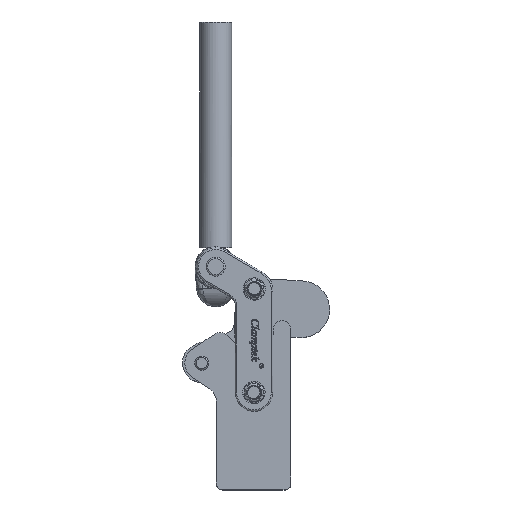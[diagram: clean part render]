
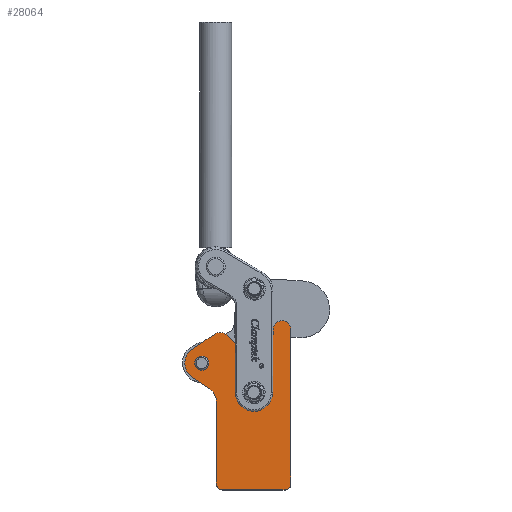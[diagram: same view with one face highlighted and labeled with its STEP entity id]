
A CAD part, top view. The second image highlights one B-rep face of the part: STEP entity #28064.
In plain terms, the highlighted planar face has unit normal (0, 0, 1).
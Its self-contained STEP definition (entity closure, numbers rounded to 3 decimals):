
#961=FACE_BOUND('',#3507,.T.);
#962=FACE_BOUND('',#3508,.T.);
#1029=PLANE('',#29809);
#1997=FACE_OUTER_BOUND('',#3506,.T.);
#3506=EDGE_LOOP('',(#19115,#19116,#19117,#19118,#19119,#19120,#19121,#19122,
#19123,#19124,#19125,#19126,#19127,#19128));
#3507=EDGE_LOOP('',(#19129,#19130));
#3508=EDGE_LOOP('',(#19131,#19132));
#5084=LINE('',#39654,#7996);
#5085=LINE('',#39658,#7997);
#5086=LINE('',#39662,#7998);
#5087=LINE('',#39666,#7999);
#5088=LINE('',#39670,#8000);
#5089=LINE('',#39673,#8001);
#5090=LINE('',#39674,#8002);
#7996=VECTOR('',#32136,1000.);
#7997=VECTOR('',#32139,1000.);
#7998=VECTOR('',#32142,1000.);
#7999=VECTOR('',#32145,1000.);
#8000=VECTOR('',#32148,1000.);
#8001=VECTOR('',#32151,1000.);
#8002=VECTOR('',#32152,1000.);
#10904=CIRCLE('',#29797,4.75);
#10907=CIRCLE('',#29800,4.75);
#10908=CIRCLE('',#29802,6.35);
#10911=CIRCLE('',#29805,6.35);
#10912=CIRCLE('',#29807,11.5);
#10914=CIRCLE('',#29810,10.);
#10915=CIRCLE('',#29811,4.);
#10916=CIRCLE('',#29812,4.);
#10917=CIRCLE('',#29813,6.);
#10918=CIRCLE('',#29814,13.5);
#10919=CIRCLE('',#29815,7.5);
#11864=VERTEX_POINT('',#39621);
#11865=VERTEX_POINT('',#39622);
#11868=VERTEX_POINT('',#39631);
#11869=VERTEX_POINT('',#39632);
#11872=VERTEX_POINT('',#39641);
#11873=VERTEX_POINT('',#39642);
#11876=VERTEX_POINT('',#39650);
#11877=VERTEX_POINT('',#39651);
#11878=VERTEX_POINT('',#39653);
#11879=VERTEX_POINT('',#39655);
#11880=VERTEX_POINT('',#39657);
#11881=VERTEX_POINT('',#39659);
#11882=VERTEX_POINT('',#39661);
#11883=VERTEX_POINT('',#39663);
#11884=VERTEX_POINT('',#39665);
#11885=VERTEX_POINT('',#39667);
#11886=VERTEX_POINT('',#39669);
#11887=VERTEX_POINT('',#39671);
#14756=EDGE_CURVE('',#11864,#11865,#10904,.T.);
#14760=EDGE_CURVE('',#11865,#11864,#10907,.T.);
#14761=EDGE_CURVE('',#11868,#11869,#10908,.T.);
#14765=EDGE_CURVE('',#11869,#11868,#10911,.T.);
#14766=EDGE_CURVE('',#11872,#11873,#10912,.T.);
#14770=EDGE_CURVE('',#11876,#11877,#10914,.T.);
#14771=EDGE_CURVE('',#11877,#11878,#5084,.T.);
#14772=EDGE_CURVE('',#11878,#11879,#10915,.T.);
#14773=EDGE_CURVE('',#11879,#11880,#5085,.T.);
#14774=EDGE_CURVE('',#11880,#11881,#10916,.T.);
#14775=EDGE_CURVE('',#11881,#11882,#5086,.T.);
#14776=EDGE_CURVE('',#11882,#11883,#10917,.T.);
#14777=EDGE_CURVE('',#11883,#11884,#5087,.T.);
#14778=EDGE_CURVE('',#11884,#11885,#10918,.T.);
#14779=EDGE_CURVE('',#11885,#11886,#5088,.T.);
#14780=EDGE_CURVE('',#11886,#11887,#10919,.T.);
#14781=EDGE_CURVE('',#11887,#11872,#5089,.T.);
#14782=EDGE_CURVE('',#11873,#11876,#5090,.T.);
#19115=ORIENTED_EDGE('',*,*,#14770,.T.);
#19116=ORIENTED_EDGE('',*,*,#14771,.T.);
#19117=ORIENTED_EDGE('',*,*,#14772,.T.);
#19118=ORIENTED_EDGE('',*,*,#14773,.T.);
#19119=ORIENTED_EDGE('',*,*,#14774,.T.);
#19120=ORIENTED_EDGE('',*,*,#14775,.T.);
#19121=ORIENTED_EDGE('',*,*,#14776,.T.);
#19122=ORIENTED_EDGE('',*,*,#14777,.T.);
#19123=ORIENTED_EDGE('',*,*,#14778,.T.);
#19124=ORIENTED_EDGE('',*,*,#14779,.T.);
#19125=ORIENTED_EDGE('',*,*,#14780,.T.);
#19126=ORIENTED_EDGE('',*,*,#14781,.T.);
#19127=ORIENTED_EDGE('',*,*,#14766,.T.);
#19128=ORIENTED_EDGE('',*,*,#14782,.T.);
#19129=ORIENTED_EDGE('',*,*,#14756,.F.);
#19130=ORIENTED_EDGE('',*,*,#14760,.F.);
#19131=ORIENTED_EDGE('',*,*,#14761,.F.);
#19132=ORIENTED_EDGE('',*,*,#14765,.F.);
#28064=ADVANCED_FACE('',(#1997,#961,#962),#1029,.T.);
#29797=AXIS2_PLACEMENT_3D('',#39623,#32104,#32105);
#29800=AXIS2_PLACEMENT_3D('',#39629,#32111,#32112);
#29802=AXIS2_PLACEMENT_3D('',#39633,#32115,#32116);
#29805=AXIS2_PLACEMENT_3D('',#39639,#32122,#32123);
#29807=AXIS2_PLACEMENT_3D('',#39643,#32126,#32127);
#29809=AXIS2_PLACEMENT_3D('',#39649,#32132,#32133);
#29810=AXIS2_PLACEMENT_3D('',#39652,#32134,#32135);
#29811=AXIS2_PLACEMENT_3D('',#39656,#32137,#32138);
#29812=AXIS2_PLACEMENT_3D('',#39660,#32140,#32141);
#29813=AXIS2_PLACEMENT_3D('',#39664,#32143,#32144);
#29814=AXIS2_PLACEMENT_3D('',#39668,#32146,#32147);
#29815=AXIS2_PLACEMENT_3D('',#39672,#32149,#32150);
#32104=DIRECTION('center_axis',(0.,0.,1.));
#32105=DIRECTION('ref_axis',(1.,0.,0.));
#32111=DIRECTION('center_axis',(0.,0.,1.));
#32112=DIRECTION('ref_axis',(1.,0.,0.));
#32115=DIRECTION('center_axis',(0.,0.,1.));
#32116=DIRECTION('ref_axis',(1.,0.,0.));
#32122=DIRECTION('center_axis',(0.,0.,1.));
#32123=DIRECTION('ref_axis',(1.,0.,0.));
#32126=DIRECTION('center_axis',(0.,0.,1.));
#32127=DIRECTION('ref_axis',(1.,0.,0.));
#32132=DIRECTION('center_axis',(0.,0.,1.));
#32133=DIRECTION('ref_axis',(1.,0.,0.));
#32134=DIRECTION('center_axis',(0.,0.,-1.));
#32135=DIRECTION('ref_axis',(1.,0.,0.));
#32136=DIRECTION('',(0.,-1.,0.));
#32137=DIRECTION('center_axis',(0.,0.,1.));
#32138=DIRECTION('ref_axis',(-1.,0.,0.));
#32139=DIRECTION('',(1.,0.,0.));
#32140=DIRECTION('center_axis',(0.,0.,1.));
#32141=DIRECTION('ref_axis',(1.,0.,0.));
#32142=DIRECTION('',(0.,1.,0.));
#32143=DIRECTION('center_axis',(0.,0.,1.));
#32144=DIRECTION('ref_axis',(1.,0.,0.));
#32145=DIRECTION('',(0.,-1.,0.));
#32146=DIRECTION('center_axis',(0.,0.,-1.));
#32147=DIRECTION('ref_axis',(1.,0.,0.));
#32148=DIRECTION('',(-0.668,0.744,0.));
#32149=DIRECTION('center_axis',(0.,0.,1.));
#32150=DIRECTION('ref_axis',(1.,0.,0.));
#32151=DIRECTION('',(-0.832,-0.554,0.));
#32152=DIRECTION('',(0.832,-0.554,0.));
#39621=CARTESIAN_POINT('',(-13.72,85.66,6.));
#39622=CARTESIAN_POINT('',(-4.22,85.66,6.));
#39623=CARTESIAN_POINT('Origin',(-8.97,85.66,6.));
#39629=CARTESIAN_POINT('Origin',(-8.97,85.66,6.));
#39631=CARTESIAN_POINT('',(19.92,65.8,6.));
#39632=CARTESIAN_POINT('',(32.62,65.8,6.));
#39633=CARTESIAN_POINT('Origin',(26.27,65.8,6.));
#39639=CARTESIAN_POINT('Origin',(26.27,65.8,6.));
#39641=CARTESIAN_POINT('',(-15.341,95.234,6.));
#39642=CARTESIAN_POINT('',(-15.341,76.086,6.));
#39643=CARTESIAN_POINT('Origin',(-8.97,85.66,6.));
#39649=CARTESIAN_POINT('Origin',(-9.228,60.006,6.));
#39650=CARTESIAN_POINT('',(-3.687,68.331,6.));
#39651=CARTESIAN_POINT('',(0.772,60.006,6.));
#39652=CARTESIAN_POINT('Origin',(-9.228,60.006,6.));
#39653=CARTESIAN_POINT('',(0.772,4.,6.));
#39654=CARTESIAN_POINT('',(0.772,4.,6.));
#39655=CARTESIAN_POINT('',(4.772,0.,6.));
#39656=CARTESIAN_POINT('Origin',(4.772,4.,6.));
#39657=CARTESIAN_POINT('',(47.27,0.,6.));
#39658=CARTESIAN_POINT('',(4.772,0.,6.));
#39659=CARTESIAN_POINT('',(51.27,4.,6.));
#39660=CARTESIAN_POINT('Origin',(47.27,4.,6.));
#39661=CARTESIAN_POINT('',(51.27,108.3,6.));
#39662=CARTESIAN_POINT('',(51.27,4.,6.));
#39663=CARTESIAN_POINT('',(39.27,108.3,6.));
#39664=CARTESIAN_POINT('Origin',(45.27,108.3,6.));
#39665=CARTESIAN_POINT('',(39.27,105.62,6.));
#39666=CARTESIAN_POINT('',(39.27,108.3,6.));
#39667=CARTESIAN_POINT('',(15.722,96.604,6.));
#39668=CARTESIAN_POINT('Origin',(25.77,105.62,6.));
#39669=CARTESIAN_POINT('',(9.212,103.859,6.));
#39670=CARTESIAN_POINT('',(9.212,103.859,6.));
#39671=CARTESIAN_POINT('',(-0.525,105.094,6.));
#39672=CARTESIAN_POINT('Origin',(3.63,98.85,6.));
#39673=CARTESIAN_POINT('',(-15.341,95.234,6.));
#39674=CARTESIAN_POINT('',(-15.341,76.086,6.));
